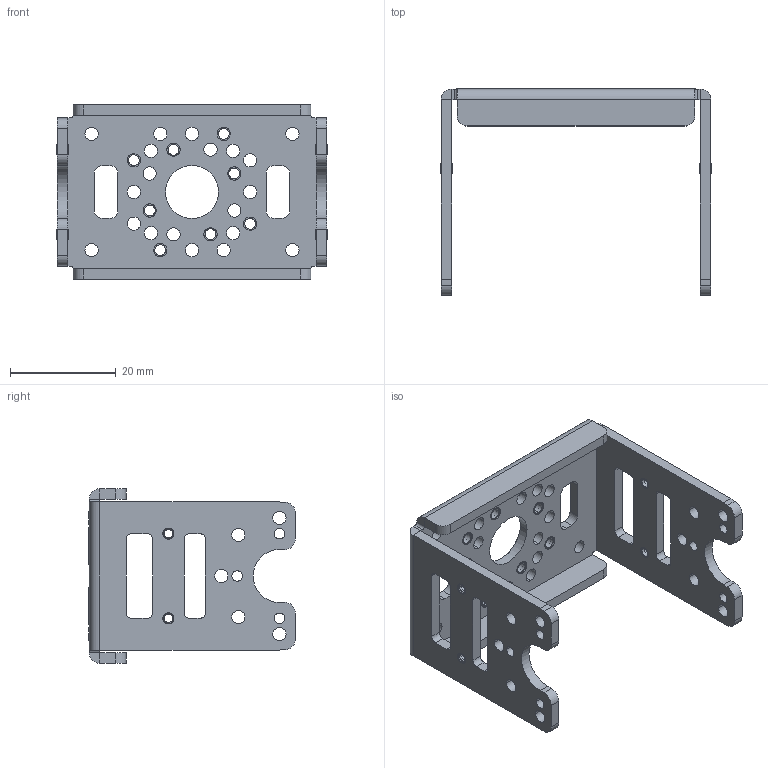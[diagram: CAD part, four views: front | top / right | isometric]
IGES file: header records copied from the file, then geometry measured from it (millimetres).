
Start section:  PTC IGES file: fr05_h101.igs
Global section: file name: fr05_h101.igs; native system: Pro/ENGINEER by Parametric Technology Corporation; preprocessor: 2009060; author: JANG WOOK; organization: Unknown; date: 20100202.170044; units: millimetre
Bounding box: 51.26 x 39.08 x 33 mm (x, y, z)
Surface area: 9356 mm2 (no closed solid volume)
Topology: 0 solids, 0 shells, 286 faces, 2068 edges, 2380 vertices
Faces by surface type: revolution 222, bspline 64
